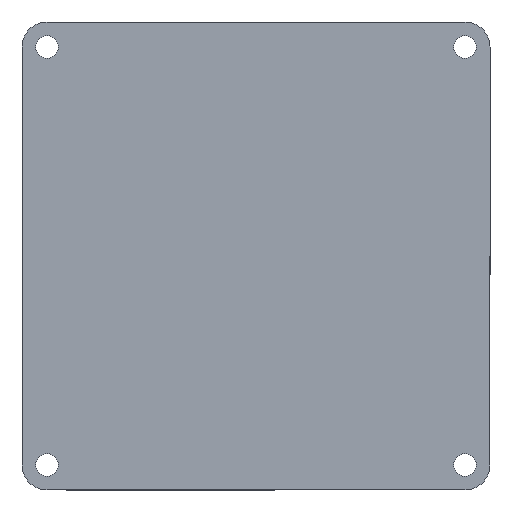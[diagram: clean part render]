
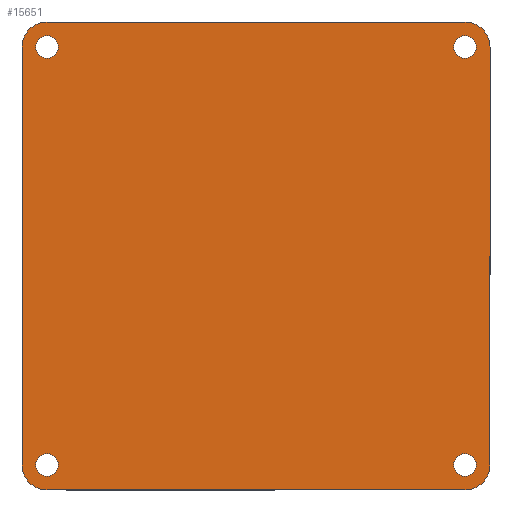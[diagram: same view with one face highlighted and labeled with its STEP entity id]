
A CAD part, front view. The second image highlights one B-rep face of the part: STEP entity #15651.
In plain terms, the highlighted planar face has unit normal (0, -1, 0).
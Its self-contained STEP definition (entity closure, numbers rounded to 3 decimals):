
#1130 = DIRECTION ( 'NONE',  ( 0., -1., 0. ) ) ;
#1798 = CARTESIAN_POINT ( 'NONE',  ( -31.25, 0., 31.25 ) ) ;
#2929 = ORIENTED_EDGE ( 'NONE', *, *, #49529, .F. ) ;
#3501 = DIRECTION ( 'NONE',  ( 0., 0., 1. ) ) ;
#3571 = DIRECTION ( 'NONE',  ( -1., 0., 0. ) ) ;
#3807 = DIRECTION ( 'NONE',  ( 0., 0., 1. ) ) ;
#6195 = LINE ( 'NONE', #63762, #66098 ) ;
#6488 = CARTESIAN_POINT ( 'NONE',  ( 31.25, 0., 31.25 ) ) ;
#7896 = FACE_BOUND ( 'NONE', #66610, .T. ) ;
#8248 = DIRECTION ( 'NONE',  ( 0., 0., 1. ) ) ;
#8924 = CARTESIAN_POINT ( 'NONE',  ( 31.25, 0., 35. ) ) ;
#10118 = AXIS2_PLACEMENT_3D ( 'NONE', #12950, #57504, #19326 ) ;
#10248 = ORIENTED_EDGE ( 'NONE', *, *, #19057, .F. ) ;
#10362 = VERTEX_POINT ( 'NONE', #36886 ) ;
#10753 = EDGE_CURVE ( 'NONE', #36448, #48730, #31555, .T. ) ;
#11226 = CIRCLE ( 'NONE', #79089, 3.75 ) ;
#11726 = CARTESIAN_POINT ( 'NONE',  ( -31.25, 0., -35. ) ) ;
#12207 = AXIS2_PLACEMENT_3D ( 'NONE', #28856, #41673, #3501 ) ;
#12912 = DIRECTION ( 'NONE',  ( 0., 0., 1. ) ) ;
#12950 = CARTESIAN_POINT ( 'NONE',  ( -31.25, 0., -31.25 ) ) ;
#13876 = VERTEX_POINT ( 'NONE', #72869 ) ;
#13929 = VERTEX_POINT ( 'NONE', #8924 ) ;
#14204 = FACE_BOUND ( 'NONE', #15714, .T. ) ;
#14841 = CARTESIAN_POINT ( 'NONE',  ( -31.25, 0., 35. ) ) ;
#15651 = ADVANCED_FACE ( 'NONE', ( #55790, #14204, #7896, #25832, #25090 ), #35227, .F. ) ;
#15714 = EDGE_LOOP ( 'NONE', ( #47852 ) ) ;
#16568 = EDGE_LOOP ( 'NONE', ( #68354 ) ) ;
#16653 = EDGE_CURVE ( 'NONE', #10362, #10362, #66875, .T. ) ;
#18506 = VERTEX_POINT ( 'NONE', #79773 ) ;
#18683 = AXIS2_PLACEMENT_3D ( 'NONE', #66598, #28338, #73052 ) ;
#18989 = CIRCLE ( 'NONE', #10118, 3.75 ) ;
#19042 = CARTESIAN_POINT ( 'NONE',  ( 35., 0., -35. ) ) ;
#19057 = EDGE_CURVE ( 'NONE', #18506, #68528, #32864, .T. ) ;
#19326 = DIRECTION ( 'NONE',  ( 0., 0., 1. ) ) ;
#21416 = LINE ( 'NONE', #37419, #57845 ) ;
#21505 = EDGE_CURVE ( 'NONE', #25325, #68528, #59398, .T. ) ;
#21602 = EDGE_CURVE ( 'NONE', #18506, #13929, #11226, .T. ) ;
#21896 = CIRCLE ( 'NONE', #72163, 1.7 ) ;
#23154 = CARTESIAN_POINT ( 'NONE',  ( -31.25, 0., 31.25 ) ) ;
#23919 = EDGE_CURVE ( 'NONE', #53213, #48730, #6195, .T. ) ;
#24903 = VECTOR ( 'NONE', #25421, 1000. ) ;
#25090 = FACE_BOUND ( 'NONE', #29878, .T. ) ;
#25325 = VERTEX_POINT ( 'NONE', #50019 ) ;
#25421 = DIRECTION ( 'NONE',  ( 0., 0., -1. ) ) ;
#25496 = DIRECTION ( 'NONE',  ( 0., 0., 1. ) ) ;
#25832 = FACE_BOUND ( 'NONE', #16568, .T. ) ;
#28338 = DIRECTION ( 'NONE',  ( 0., -1., 0. ) ) ;
#28856 = CARTESIAN_POINT ( 'NONE',  ( -35., 0., 35. ) ) ;
#29389 = ORIENTED_EDGE ( 'NONE', *, *, #16653, .F. ) ;
#29527 = DIRECTION ( 'NONE',  ( 0., 0., 1. ) ) ;
#29677 = ORIENTED_EDGE ( 'NONE', *, *, #77870, .T. ) ;
#29878 = EDGE_LOOP ( 'NONE', ( #53030 ) ) ;
#30062 = AXIS2_PLACEMENT_3D ( 'NONE', #23154, #67837, #29527 ) ;
#31555 = CIRCLE ( 'NONE', #75677, 3.75 ) ;
#32174 = CIRCLE ( 'NONE', #30062, 1.7 ) ;
#32864 = LINE ( 'NONE', #19042, #24903 ) ;
#34567 = DIRECTION ( 'NONE',  ( 0., -1., 0. ) ) ;
#35227 = PLANE ( 'NONE',  #12207 ) ;
#36448 = VERTEX_POINT ( 'NONE', #14841 ) ;
#36500 = VECTOR ( 'NONE', #3571, 1000. ) ;
#36886 = CARTESIAN_POINT ( 'NONE',  ( -31.25, 0., -29.55 ) ) ;
#37292 = AXIS2_PLACEMENT_3D ( 'NONE', #39321, #1130, #45738 ) ;
#37419 = CARTESIAN_POINT ( 'NONE',  ( -35., 0., 35. ) ) ;
#37587 = EDGE_CURVE ( 'NONE', #25325, #59980, #64493, .T. ) ;
#39321 = CARTESIAN_POINT ( 'NONE',  ( -31.25, 0., -31.25 ) ) ;
#40082 = ORIENTED_EDGE ( 'NONE', *, *, #21602, .T. ) ;
#41342 = EDGE_CURVE ( 'NONE', #13876, #13876, #21896, .T. ) ;
#41673 = DIRECTION ( 'NONE',  ( 0., 1., 0. ) ) ;
#41990 = DIRECTION ( 'NONE',  ( 0., -1., 0. ) ) ;
#43840 = DIRECTION ( 'NONE',  ( 1., 0., 0. ) ) ;
#45738 = DIRECTION ( 'NONE',  ( 0., 0., 1. ) ) ;
#46381 = DIRECTION ( 'NONE',  ( 0., -1., 0. ) ) ;
#47852 = ORIENTED_EDGE ( 'NONE', *, *, #52297, .F. ) ;
#48648 = CARTESIAN_POINT ( 'NONE',  ( -35., 0., 31.25 ) ) ;
#48730 = VERTEX_POINT ( 'NONE', #48648 ) ;
#49529 = EDGE_CURVE ( 'NONE', #36448, #13929, #21416, .T. ) ;
#50019 = CARTESIAN_POINT ( 'NONE',  ( 31.25, 0., -35. ) ) ;
#50937 = VERTEX_POINT ( 'NONE', #62280 ) ;
#50975 = DIRECTION ( 'NONE',  ( 0., -1., 0. ) ) ;
#52297 = EDGE_CURVE ( 'NONE', #57724, #57724, #59649, .T. ) ;
#52372 = AXIS2_PLACEMENT_3D ( 'NONE', #72909, #34567, #79363 ) ;
#53030 = ORIENTED_EDGE ( 'NONE', *, *, #41342, .F. ) ;
#53213 = VERTEX_POINT ( 'NONE', #56241 ) ;
#54284 = CARTESIAN_POINT ( 'NONE',  ( -35., 0., -35. ) ) ;
#55790 = FACE_OUTER_BOUND ( 'NONE', #79542, .T. ) ;
#56241 = CARTESIAN_POINT ( 'NONE',  ( -35., 0., -31.25 ) ) ;
#57504 = DIRECTION ( 'NONE',  ( 0., -1., 0. ) ) ;
#57724 = VERTEX_POINT ( 'NONE', #74250 ) ;
#57845 = VECTOR ( 'NONE', #43840, 1000. ) ;
#59398 = CIRCLE ( 'NONE', #18683, 3.75 ) ;
#59649 = CIRCLE ( 'NONE', #52372, 1.7 ) ;
#59980 = VERTEX_POINT ( 'NONE', #11726 ) ;
#60049 = CARTESIAN_POINT ( 'NONE',  ( 35., 0., -31.25 ) ) ;
#62280 = CARTESIAN_POINT ( 'NONE',  ( -31.25, 0., 32.95 ) ) ;
#63762 = CARTESIAN_POINT ( 'NONE',  ( -35., 0., -35. ) ) ;
#64493 = LINE ( 'NONE', #54284, #36500 ) ;
#64753 = ORIENTED_EDGE ( 'NONE', *, *, #37587, .F. ) ;
#66098 = VECTOR ( 'NONE', #25496, 1000. ) ;
#66598 = CARTESIAN_POINT ( 'NONE',  ( 31.25, 0., -31.25 ) ) ;
#66610 = EDGE_LOOP ( 'NONE', ( #29389 ) ) ;
#66875 = CIRCLE ( 'NONE', #37292, 1.7 ) ;
#67837 = DIRECTION ( 'NONE',  ( 0., -1., 0. ) ) ;
#68354 = ORIENTED_EDGE ( 'NONE', *, *, #73595, .F. ) ;
#68528 = VERTEX_POINT ( 'NONE', #60049 ) ;
#71356 = ORIENTED_EDGE ( 'NONE', *, *, #10753, .T. ) ;
#72163 = AXIS2_PLACEMENT_3D ( 'NONE', #6488, #50975, #12912 ) ;
#72869 = CARTESIAN_POINT ( 'NONE',  ( 31.25, 0., 32.95 ) ) ;
#72909 = CARTESIAN_POINT ( 'NONE',  ( 31.25, 0., -31.25 ) ) ;
#73052 = DIRECTION ( 'NONE',  ( 0., 0., 1. ) ) ;
#73595 = EDGE_CURVE ( 'NONE', #50937, #50937, #32174, .T. ) ;
#74123 = ORIENTED_EDGE ( 'NONE', *, *, #21505, .T. ) ;
#74250 = CARTESIAN_POINT ( 'NONE',  ( 31.25, 0., -29.55 ) ) ;
#74613 = ORIENTED_EDGE ( 'NONE', *, *, #23919, .F. ) ;
#75677 = AXIS2_PLACEMENT_3D ( 'NONE', #1798, #46381, #8248 ) ;
#77870 = EDGE_CURVE ( 'NONE', #53213, #59980, #18989, .T. ) ;
#79089 = AXIS2_PLACEMENT_3D ( 'NONE', #80308, #41990, #3807 ) ;
#79363 = DIRECTION ( 'NONE',  ( 0., 0., 1. ) ) ;
#79542 = EDGE_LOOP ( 'NONE', ( #2929, #71356, #74613, #29677, #64753, #74123, #10248, #40082 ) ) ;
#79773 = CARTESIAN_POINT ( 'NONE',  ( 35., 0., 31.25 ) ) ;
#80308 = CARTESIAN_POINT ( 'NONE',  ( 31.25, 0., 31.25 ) ) ;
